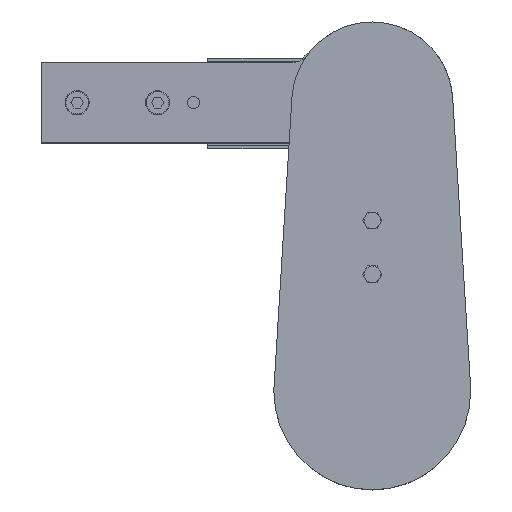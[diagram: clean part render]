
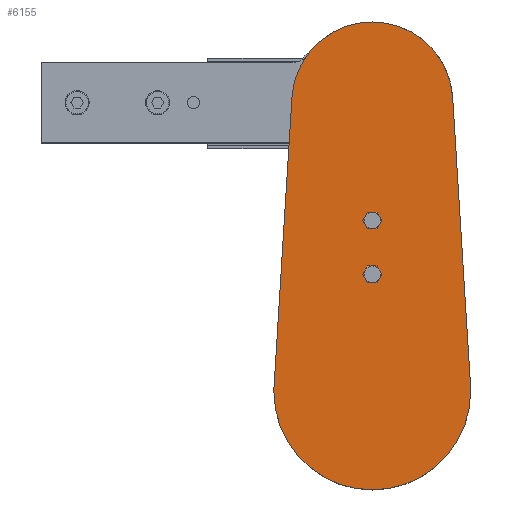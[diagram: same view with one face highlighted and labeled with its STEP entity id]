
A CAD part, top view. The second image highlights one B-rep face of the part: STEP entity #6155.
In plain terms, the highlighted planar face has unit normal (0, 0, 1).
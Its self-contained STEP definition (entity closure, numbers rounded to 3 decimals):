
#169 = VERTEX_POINT ( 'NONE', #13163 ) ;
#291 = CARTESIAN_POINT ( 'NONE',  ( 44.914, 2.786, 191.5 ) ) ;
#366 = DIRECTION ( 'NONE',  ( -1., 0., 0. ) ) ;
#367 = CARTESIAN_POINT ( 'NONE',  ( 3.5, -66., 191.5 ) ) ;
#542 = DIRECTION ( 'NONE',  ( 0., 0., -1. ) ) ;
#629 = DIRECTION ( 'NONE',  ( 0., 0., 1. ) ) ;
#686 = DIRECTION ( 'NONE',  ( 0., 0., -1. ) ) ;
#1579 = AXIS2_PLACEMENT_3D ( 'NONE', #2996, #4335, #13671 ) ;
#1594 = DIRECTION ( 'NONE',  ( -1., 0., 0. ) ) ;
#1830 = CARTESIAN_POINT ( 'NONE',  ( -55., -161.5, 191.5 ) ) ;
#2765 = CIRCLE ( 'NONE', #4440, 3.5 ) ;
#2945 = EDGE_LOOP ( 'NONE', ( #16945, #16525 ) ) ;
#2977 = CIRCLE ( 'NONE', #13479, 3.5 ) ;
#2996 = CARTESIAN_POINT ( 'NONE',  ( 0., -161.5, 191.5 ) ) ;
#3548 = CARTESIAN_POINT ( 'NONE',  ( -54.894, -158.094, 191.5 ) ) ;
#3613 = EDGE_CURVE ( 'NONE', #13280, #6515, #2765, .T. ) ;
#3761 = CARTESIAN_POINT ( 'NONE',  ( 55., -161.5, 191.5 ) ) ;
#3830 = CIRCLE ( 'NONE', #9521, 55. ) ;
#3910 = EDGE_CURVE ( 'NONE', #14928, #3960, #2977, .T. ) ;
#3960 = VERTEX_POINT ( 'NONE', #5599 ) ;
#4054 = DIRECTION ( 'NONE',  ( 0., 0., 1. ) ) ;
#4280 = LINE ( 'NONE', #291, #8863 ) ;
#4315 = EDGE_CURVE ( 'NONE', #10810, #12324, #3830, .T. ) ;
#4329 = DIRECTION ( 'NONE',  ( 0., 0., 1. ) ) ;
#4335 = DIRECTION ( 'NONE',  ( 0., 0., -1. ) ) ;
#4440 = AXIS2_PLACEMENT_3D ( 'NONE', #16341, #4329, #12493 ) ;
#5306 = DIRECTION ( 'NONE',  ( -1., 0., 0. ) ) ;
#5389 = EDGE_LOOP ( 'NONE', ( #7910, #9176 ) ) ;
#5473 = AXIS2_PLACEMENT_3D ( 'NONE', #6241, #686, #15605 ) ;
#5599 = CARTESIAN_POINT ( 'NONE',  ( 3.5, -96., 191.5 ) ) ;
#5623 = CARTESIAN_POINT ( 'NONE',  ( 54.894, -158.094, 191.5 ) ) ;
#5640 = AXIS2_PLACEMENT_3D ( 'NONE', #14525, #16042, #14646 ) ;
#5850 = PLANE ( 'NONE',  #13159 ) ;
#5979 = EDGE_CURVE ( 'NONE', #6515, #13280, #16109, .T. ) ;
#6155 = ADVANCED_FACE ( 'NONE', ( #13372, #10436, #14004 ), #5850, .F. ) ;
#6241 = CARTESIAN_POINT ( 'NONE',  ( 0., 0., 191.5 ) ) ;
#6401 = CIRCLE ( 'NONE', #5473, 45. ) ;
#6515 = VERTEX_POINT ( 'NONE', #9579 ) ;
#6641 = CARTESIAN_POINT ( 'NONE',  ( 0., -161.5, 191.5 ) ) ;
#7910 = ORIENTED_EDGE ( 'NONE', *, *, #5979, .F. ) ;
#7940 = DIRECTION ( 'NONE',  ( 0., 0., -1. ) ) ;
#7943 = CARTESIAN_POINT ( 'NONE',  ( -44.914, 2.786, 191.5 ) ) ;
#8374 = DIRECTION ( 'NONE',  ( 0.062, 0.998, 0. ) ) ;
#8518 = CIRCLE ( 'NONE', #9959, 55. ) ;
#8722 = LINE ( 'NONE', #16368, #15812 ) ;
#8863 = VECTOR ( 'NONE', #9768, 1000. ) ;
#9176 = ORIENTED_EDGE ( 'NONE', *, *, #3613, .F. ) ;
#9521 = AXIS2_PLACEMENT_3D ( 'NONE', #6641, #7940, #5306 ) ;
#9541 = ORIENTED_EDGE ( 'NONE', *, *, #9962, .F. ) ;
#9579 = CARTESIAN_POINT ( 'NONE',  ( -3.5, -66., 191.5 ) ) ;
#9760 = DIRECTION ( 'NONE',  ( 0., 0., -1. ) ) ;
#9768 = DIRECTION ( 'NONE',  ( 0.062, -0.998, 0. ) ) ;
#9813 = DIRECTION ( 'NONE',  ( -1., 0., 0. ) ) ;
#9850 = EDGE_CURVE ( 'NONE', #13294, #17050, #8518, .T. ) ;
#9935 = CARTESIAN_POINT ( 'NONE',  ( 0., -161.5, 191.5 ) ) ;
#9959 = AXIS2_PLACEMENT_3D ( 'NONE', #9935, #9760, #9813 ) ;
#9962 = EDGE_CURVE ( 'NONE', #17244, #169, #6401, .T. ) ;
#10436 = FACE_BOUND ( 'NONE', #2945, .T. ) ;
#10751 = EDGE_CURVE ( 'NONE', #17050, #10810, #14344, .T. ) ;
#10810 = VERTEX_POINT ( 'NONE', #1830 ) ;
#10920 = CARTESIAN_POINT ( 'NONE',  ( 0., -96., 191.5 ) ) ;
#11123 = CARTESIAN_POINT ( 'NONE',  ( 0., 0., 191.5 ) ) ;
#11838 = EDGE_CURVE ( 'NONE', #169, #13294, #4280, .T. ) ;
#12324 = VERTEX_POINT ( 'NONE', #3548 ) ;
#12493 = DIRECTION ( 'NONE',  ( -1., 0., 0. ) ) ;
#12663 = ORIENTED_EDGE ( 'NONE', *, *, #10751, .F. ) ;
#12734 = DIRECTION ( 'NONE',  ( -1., 0., 0. ) ) ;
#13159 = AXIS2_PLACEMENT_3D ( 'NONE', #11123, #542, #366 ) ;
#13163 = CARTESIAN_POINT ( 'NONE',  ( 44.914, 2.786, 191.5 ) ) ;
#13213 = EDGE_LOOP ( 'NONE', ( #9541, #15618, #15823, #12663, #14843, #15351 ) ) ;
#13280 = VERTEX_POINT ( 'NONE', #367 ) ;
#13294 = VERTEX_POINT ( 'NONE', #5623 ) ;
#13372 = FACE_BOUND ( 'NONE', #5389, .T. ) ;
#13454 = EDGE_CURVE ( 'NONE', #12324, #17244, #8722, .T. ) ;
#13479 = AXIS2_PLACEMENT_3D ( 'NONE', #10920, #4054, #1594 ) ;
#13510 = AXIS2_PLACEMENT_3D ( 'NONE', #16578, #629, #12734 ) ;
#13574 = CIRCLE ( 'NONE', #13510, 3.5 ) ;
#13671 = DIRECTION ( 'NONE',  ( -1., 0., 0. ) ) ;
#14004 = FACE_OUTER_BOUND ( 'NONE', #13213, .T. ) ;
#14344 = CIRCLE ( 'NONE', #1579, 55. ) ;
#14525 = CARTESIAN_POINT ( 'NONE',  ( 0., -66., 191.5 ) ) ;
#14646 = DIRECTION ( 'NONE',  ( -1., 0., 0. ) ) ;
#14843 = ORIENTED_EDGE ( 'NONE', *, *, #9850, .F. ) ;
#14928 = VERTEX_POINT ( 'NONE', #15079 ) ;
#15079 = CARTESIAN_POINT ( 'NONE',  ( -3.5, -96., 191.5 ) ) ;
#15351 = ORIENTED_EDGE ( 'NONE', *, *, #11838, .F. ) ;
#15422 = EDGE_CURVE ( 'NONE', #3960, #14928, #13574, .T. ) ;
#15605 = DIRECTION ( 'NONE',  ( -1., 0., 0. ) ) ;
#15618 = ORIENTED_EDGE ( 'NONE', *, *, #13454, .F. ) ;
#15812 = VECTOR ( 'NONE', #8374, 1000. ) ;
#15823 = ORIENTED_EDGE ( 'NONE', *, *, #4315, .F. ) ;
#16042 = DIRECTION ( 'NONE',  ( 0., 0., 1. ) ) ;
#16109 = CIRCLE ( 'NONE', #5640, 3.5 ) ;
#16341 = CARTESIAN_POINT ( 'NONE',  ( 0., -66., 191.5 ) ) ;
#16368 = CARTESIAN_POINT ( 'NONE',  ( -44.914, 2.786, 191.5 ) ) ;
#16525 = ORIENTED_EDGE ( 'NONE', *, *, #15422, .F. ) ;
#16578 = CARTESIAN_POINT ( 'NONE',  ( 0., -96., 191.5 ) ) ;
#16945 = ORIENTED_EDGE ( 'NONE', *, *, #3910, .F. ) ;
#17050 = VERTEX_POINT ( 'NONE', #3761 ) ;
#17244 = VERTEX_POINT ( 'NONE', #7943 ) ;
